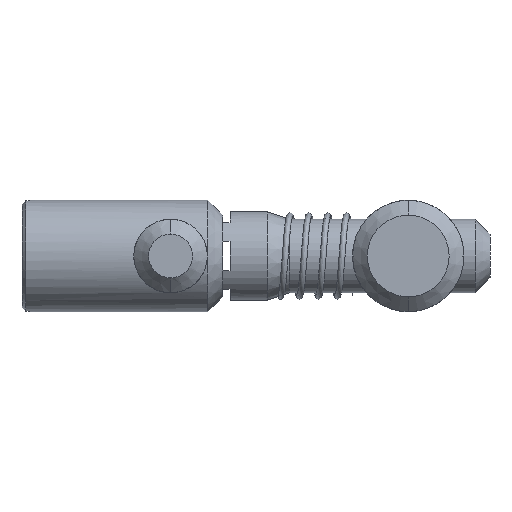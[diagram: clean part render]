
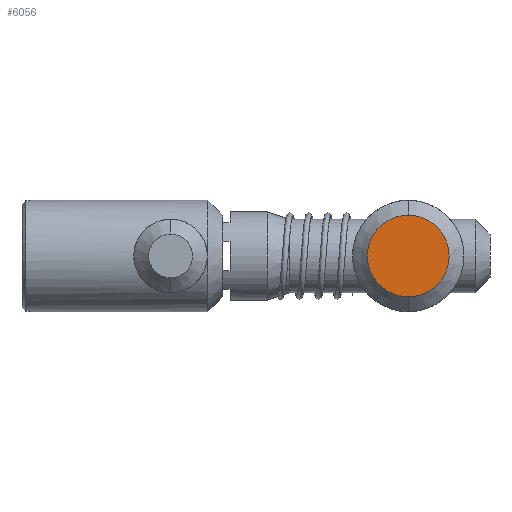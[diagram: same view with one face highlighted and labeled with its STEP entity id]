
A CAD part, left-side view. The second image highlights one B-rep face of the part: STEP entity #6056.
In plain terms, the highlighted planar face has unit normal (-1, 0, 0).
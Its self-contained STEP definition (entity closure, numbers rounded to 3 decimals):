
#140 = DIRECTION ( 'NONE',  ( 0., 0., 1. ) ) ;
#169 = DIRECTION ( 'NONE',  ( -1., 0., 0. ) ) ;
#219 = CARTESIAN_POINT ( 'NONE',  ( -3.804, -15.746, 2.588 ) ) ;
#988 = CARTESIAN_POINT ( 'NONE',  ( -3.804, -15.746, 8.088 ) ) ;
#1279 = CARTESIAN_POINT ( 'NONE',  ( -3.804, -15.746, 2.588 ) ) ;
#1487 = ORIENTED_EDGE ( 'NONE', *, *, #2662, .T. ) ;
#1853 = CARTESIAN_POINT ( 'NONE',  ( -3.804, -15.746, -2.912 ) ) ;
#1876 = DIRECTION ( 'NONE',  ( -1., 0., 0. ) ) ;
#2363 = EDGE_LOOP ( 'NONE', ( #1487, #6081 ) ) ;
#2662 = EDGE_CURVE ( 'NONE', #4589, #3869, #4276, .T. ) ;
#2961 = AXIS2_PLACEMENT_3D ( 'NONE', #219, #169, #140 ) ;
#3533 = AXIS2_PLACEMENT_3D ( 'NONE', #5232, #5181, #5152 ) ;
#3869 = VERTEX_POINT ( 'NONE', #988 ) ;
#4276 = CIRCLE ( 'NONE', #3533, 5.5 ) ;
#4475 = AXIS2_PLACEMENT_3D ( 'NONE', #1279, #1876, #5966 ) ;
#4589 = VERTEX_POINT ( 'NONE', #1853 ) ;
#4596 = EDGE_CURVE ( 'NONE', #3869, #4589, #7197, .T. ) ;
#4790 = PLANE ( 'NONE',  #4475 ) ;
#4871 = FACE_OUTER_BOUND ( 'NONE', #2363, .T. ) ;
#5152 = DIRECTION ( 'NONE',  ( 0., 0., 1. ) ) ;
#5181 = DIRECTION ( 'NONE',  ( -1., 0., 0. ) ) ;
#5232 = CARTESIAN_POINT ( 'NONE',  ( -3.804, -15.746, 2.588 ) ) ;
#5966 = DIRECTION ( 'NONE',  ( 0., 0., 1. ) ) ;
#6056 = ADVANCED_FACE ( 'NONE', ( #4871 ), #4790, .T. ) ;
#6081 = ORIENTED_EDGE ( 'NONE', *, *, #4596, .T. ) ;
#7197 = CIRCLE ( 'NONE', #2961, 5.5 ) ;
